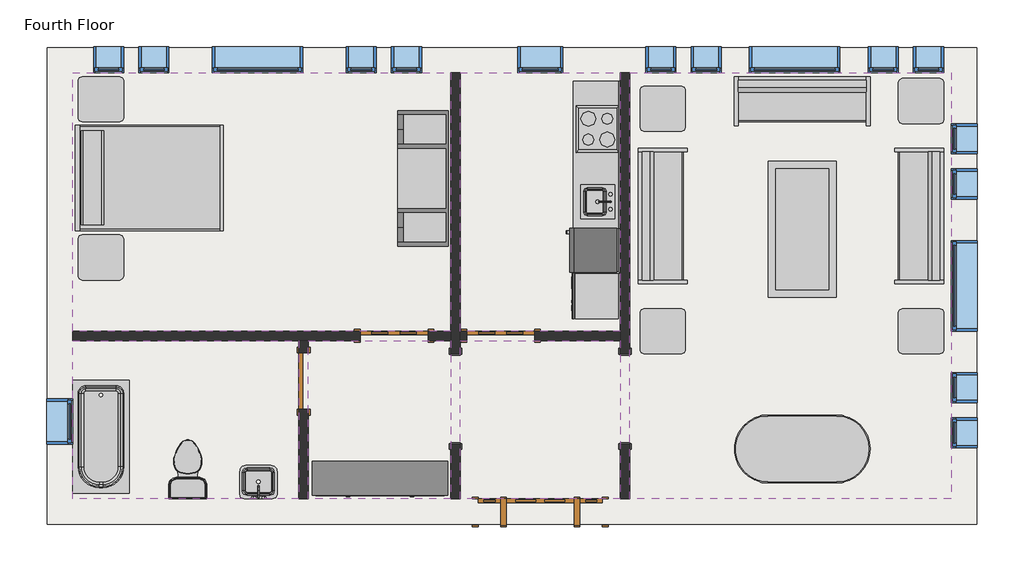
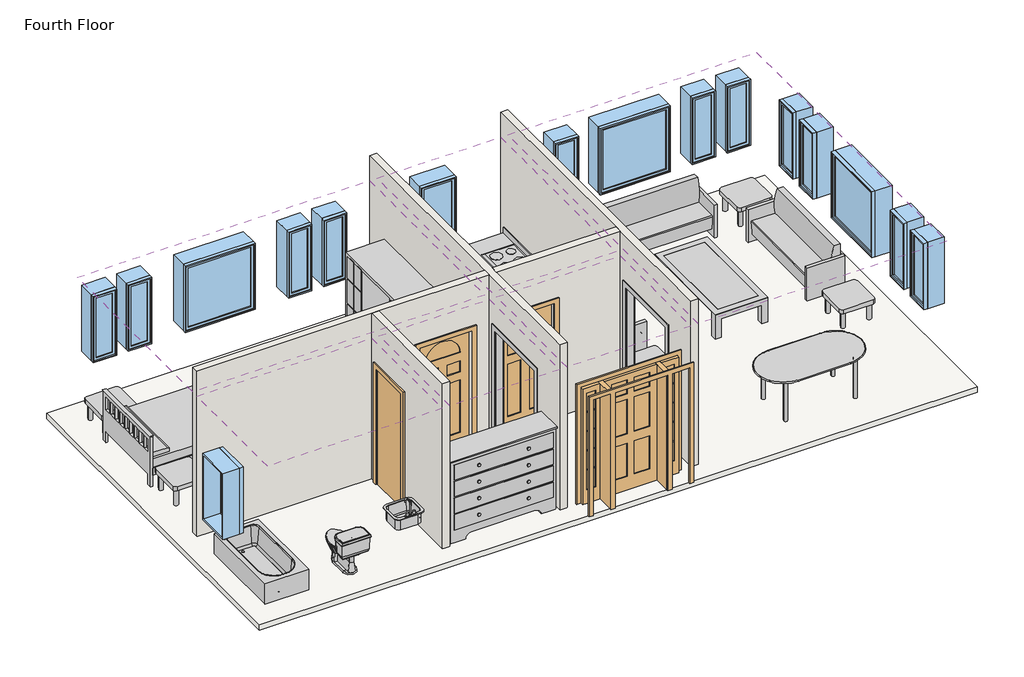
# One storey, incomplete: 17 windows, 15 furniture elements, 6 coverings, 6 proxies, 4 doors, 4 flow terminals, 4 walls, 1 slab.
"""IFC4 building model written with IfcOpenShell, lengths in millimetres."""

from ifc_helpers import new_model, si_unit, frame, origin, place, context, project, spatial, polyline, outline, extrude, faceted_brep, transform, mapped, element, save
from components import proxy_a6faaae8, proxy_45b28599, proxy_a6516e2b, proxy_f44482cc, proxy_c523a7b7, door_829da954, door_2e3b4da2, door_4d6c7550, door_ffdb1193, flow_terminal_871c2e40, flow_terminal_62a433f7, toilet_domestic_3d_toilet_domestic_3d_f7549cf7, toilet_domestic_3d_toilet_domestic_3d_183bbd19, tub_rectangular_3d_tub_rectangular_3d_c56944d8, furniture_096e7f55, furniture_dc2eca4b, furniture_7c473f12, furniture_cf0b6580, furniture_a4ffab56, furniture_cd93a443, furniture_2c34a4f9, furniture_3a588284, window_da97879f, window_d61ef850, window_60baf983, window_6eb97611

model = new_model("IFC4")

# Units and contexts
model_context = context("Model", 3, world=origin())
ifc_project = project(units=[si_unit("LENGTHUNIT", "METRE", prefix="MILLI")], contexts=[model_context])

# Site, building, storey
site = spatial("IfcSite", under=ifc_project)
building = spatial("IfcBuilding", under=site)
storey = spatial("IfcBuildingStorey", under=building, Name="Fourth Floor", Elevation=9144.0)

# Proxies
placement = place(None, origin())
proxy_shape = proxy_a6faaae8(model_context)
element("IfcBuildingElementProxy", 1, Name="Cook Top-4 Unit2 : 22\" x 20\"", ObjectType="Cook Top-4 Unit2 : 22\" x 20\"", at=placement, inside=storey, context=model_context, shape_type="MappedRepresentation", body=[
    mapped(proxy_shape, transform((2840.1428612, 5164.2241162, 9144.0), x_axis=(0.0, -1.0000000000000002, 0.0), y_axis=(1.0000000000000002, 0.0, 0.0), z_axis=(0.0, 0.0, 1.0))),
])
proxy_2_shape = proxy_45b28599(model_context)
element("IfcBuildingElementProxy", 2, Name="Dishwasher : 24\" x 24\" x 34\"", ObjectType="Dishwasher : 24\" x 24\" x 34\"", at=placement, inside=storey, context=model_context, shape_type="MappedRepresentation", body=[
    mapped(proxy_2_shape, transform((2548.2932964, 3298.6415847, 9144.0), x_axis=(0.0, -1.0000000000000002, 0.0), y_axis=(1.0000000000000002, 0.0, 0.0), z_axis=(0.0, 0.0, 1.0))),
])
proxy_3_shape = proxy_a6516e2b(model_context)
element("IfcBuildingElementProxy", 3, Name="Kitchenette - Medium : 8' 6\"", ObjectType="Kitchenette - Medium : 8' 6\"", at=placement, inside=storey, context=model_context, shape_type="MappedRepresentation", body=[
    mapped(proxy_3_shape, transform((3144.9428612, 4535.2618211, 9144.0), x_axis=(0.0, -1.0000000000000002, 0.0), y_axis=(1.0000000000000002, 0.0, 0.0), z_axis=(0.0, 0.0, 1.0))),
])
proxy_4_shape = proxy_f44482cc(model_context)
element("IfcBuildingElementProxy", 4, Name="Passage Opening-Cased : 48\" x 84\"", ObjectType="Passage Opening-Cased : 48\" x 84\"", at=placement, inside=storey, context=model_context, shape_type="MappedRepresentation", body=[
    mapped(proxy_4_shape, transform((3208.4428612, 1537.2944757, 9144.0), x_axis=(0.0, 1.0, 0.0), y_axis=(-1.0, 0.0, 0.0), z_axis=(0.0, 0.0, 1.0))),
])
element("IfcBuildingElementProxy", 5, Name="Passage Opening-Cased : 48\" x 84\"", ObjectType="Passage Opening-Cased : 48\" x 84\"", at=placement, inside=storey, context=model_context, shape_type="MappedRepresentation", body=[
    mapped(proxy_4_shape, transform((922.4428612, 1537.2944757, 9144.0), x_axis=(0.0, 1.0, 0.0), y_axis=(-1.0, 0.0, 0.0), z_axis=(0.0, 0.0, 1.0))),
])
proxy_5_shape = proxy_c523a7b7(model_context)
element("IfcBuildingElementProxy", 6, Name="Refrigerator : 24\" x 25\" LH", ObjectType="Refrigerator : 24\" x 25\" LH", at=placement, inside=storey, context=model_context, shape_type="MappedRepresentation", body=[
    mapped(proxy_5_shape, transform((2794.4938897, 3532.2741162, 9144.0), x_axis=(0.0, -1.0000000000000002, 0.0), y_axis=(1.0000000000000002, 0.0, 0.0), z_axis=(0.0, 0.0, 1.0))),
])

# Coverings
element("IfcCovering", 7, ObjectType="GWB on Mtl. Stud", at=placement, inside=storey, context=model_context, shape_type="SweptSolid", body=[
    extrude(outline(polyline([(-4235.3446388, 5924.893319), (858.9428612, 5924.893319), (858.9428612, 2441.918319), (-4235.3446388, 2441.918319), (-4235.3446388, 5924.893319)])), frame((0.0, 0.0, 11734.8), z_axis=(0.0, 0.0, 1.0), x_axis=(1.0, 0.0, 0.0)), (0.0, 0.0, 1.0), 107.95),
])
element("IfcCovering", 8, ObjectType="GWB on Mtl. Stud", at=placement, inside=storey, context=model_context, shape_type="SweptSolid", body=[
    extrude(outline(polyline([(-1187.3446388, 2314.918319), (-1187.3446388, 181.318319), (-4235.3446388, 181.318319), (-4235.3446388, 2314.918319), (-1187.3446388, 2314.918319)])), frame((0.0, 0.0, 11734.8), z_axis=(0.0, 0.0, 1.0), x_axis=(1.0, 0.0, 0.0)), (0.0, 0.0, 1.0), 107.95),
])
element("IfcCovering", 9, ObjectType="GWB on Mtl. Stud", at=placement, inside=storey, context=model_context, shape_type="SweptSolid", body=[
    extrude(outline(polyline([(858.9428612, 181.318319), (-1060.3446388, 181.318319), (-1060.3446388, 2314.918319), (858.9428612, 2314.918319), (858.9428612, 181.318319)])), frame((0.0, 0.0, 11734.8), z_axis=(0.0, 0.0, 1.0), x_axis=(1.0, 0.0, 0.0)), (0.0, 0.0, 1.0), 107.95),
])
element("IfcCovering", 10, ObjectType="GWB on Mtl. Stud", at=placement, inside=storey, context=model_context, shape_type="SweptSolid", body=[
    extrude(outline(polyline([(3144.9428612, 181.318319), (985.9428612, 181.318319), (985.9428612, 2314.918319), (3144.9428612, 2314.918319), (3144.9428612, 181.318319)])), frame((0.0, 0.0, 11734.8), z_axis=(0.0, 0.0, 1.0), x_axis=(1.0, 0.0, 0.0)), (0.0, 0.0, 1.0), 107.95),
])
element("IfcCovering", 11, ObjectType="GWB on Mtl. Stud", at=placement, inside=storey, context=model_context, shape_type="SweptSolid", body=[
    extrude(outline(polyline([(985.9428612, 2441.918319), (985.9428612, 5924.893319), (3144.9428612, 5924.893319), (3144.9428612, 2441.918319), (985.9428612, 2441.918319)])), frame((0.0, 0.0, 11734.8), z_axis=(0.0, 0.0, 1.0), x_axis=(1.0, 0.0, 0.0)), (0.0, 0.0, 1.0), 107.95),
])
element("IfcCovering", 12, ObjectType="GWB on Mtl. Stud", at=placement, inside=storey, context=model_context, shape_type="SweptSolid", body=[
    extrude(outline(polyline([(3271.9428612, 181.318319), (3271.9428612, 5924.893319), (7604.2303612, 5924.893319), (7604.2303612, 181.318319), (3271.9428612, 181.318319)])), frame((0.0, 0.0, 11734.8), z_axis=(0.0, 0.0, 1.0), x_axis=(1.0, 0.0, 0.0)), (0.0, 0.0, 1.0), 107.95),
])

# Doors
door_shape = door_829da954(model_context)
element("IfcDoor", 13, ObjectType="Single-Decorative 2 : 36\" x 84\"", at=placement, inside=storey, context=model_context, shape_type="MappedRepresentation", body=[
    mapped(door_shape, transform((1532.0428612, 2378.418319, 9144.0), x_axis=(-1.0, 0.0, 0.0), y_axis=(0.0, -1.0, 0.0), z_axis=(0.0, 0.0, 1.0))),
])
door_2_shape = door_2e3b4da2(model_context)
element("IfcDoor", 14, ObjectType="Single-Decorative 2 : 36\" x 84\"", at=placement, inside=storey, context=model_context, shape_type="MappedRepresentation", body=[
    mapped(door_2_shape, transform((95.3553612, 2378.418319, 9144.0), x_axis=(1.0, 0.0, 0.0), y_axis=(0.0, 1.0, 0.0), z_axis=(0.0, 0.0, 1.0))),
])
door_3_shape = door_4d6c7550(model_context)
element("IfcDoor", 15, ObjectType="Single-Flush : 30\" x 84\"", at=placement, inside=storey, context=model_context, shape_type="MappedRepresentation", body=[
    mapped(door_3_shape, transform((-1123.8446388, 1768.818319, 9144.0), x_axis=(0.0, 1.0, 0.0), y_axis=(-1.0, 0.0, 0.0), z_axis=(0.0, 0.0, 1.0))),
])
door_4_shape = door_ffdb1193(model_context)
element("IfcDoor", 16, ObjectType="Single-Raised Panel with Sidelights : 36\" x 84\"", at=placement, inside=storey, context=model_context, shape_type="MappedRepresentation", body=[
    mapped(door_4_shape, transform((2065.4428612, 5.105819, 9144.0), x_axis=(1.0, 0.0, 0.0), y_axis=(0.0, 1.0, 0.0), z_axis=(0.0, 0.0, 1.0))),
])

# Flow terminals
flow_terminal_shape = flow_terminal_871c2e40(model_context)
element("IfcFlowTerminal", 17, ObjectType="Sink Kitchen-Island : 18\" x 18\"", at=placement, inside=storey, context=model_context, shape_type="MappedRepresentation", body=[
    mapped(flow_terminal_shape, transform((2837.7974601, 4202.0133567, 9129.6), x_axis=(0.0, -1.0000000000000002, 0.0), y_axis=(1.0000000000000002, 0.0, 0.0), z_axis=(0.0, 0.0, 1.0))),
])
flow_terminal_2_shape = flow_terminal_62a433f7(model_context)
element("IfcFlowTerminal", 18, ObjectType="Sink Vanity-Square : 20\" x 18\"", at=placement, inside=storey, context=model_context, shape_type="MappedRepresentation", body=[
    mapped(flow_terminal_2_shape, transform((-1717.7553983, 361.4637201, 9144.0), x_axis=(-1.0, 0.0, 0.0), y_axis=(0.0, -1.0, 0.0), z_axis=(0.0, 0.0, 1.0))),
])
toilet_domestic_3d_toilet_domestic_3d_shape = toilet_domestic_3d_toilet_domestic_3d_f7549cf7(model_context)
toilet_domestic_3d_toilet_domestic_3d_2_shape = toilet_domestic_3d_toilet_domestic_3d_183bbd19(model_context)
element("IfcFlowTerminal", 19, ObjectType="Toilet-Domestic-3D : Toilet-Domestic-3D", at=placement, inside=storey, context=model_context, shape_type="MappedRepresentation", body=[
    mapped(toilet_domestic_3d_toilet_domestic_3d_shape, transform((-2684.3571388, 676.0143464, 9144.0), x_axis=(-1.0000000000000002, 0.0, 0.0), y_axis=(0.0, -1.0000000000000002, 0.0), z_axis=(0.0, 0.0, 1.0))),
    mapped(toilet_domestic_3d_toilet_domestic_3d_2_shape, transform((-2684.3571388, 676.0143464, 9144.0), x_axis=(-1.0000000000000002, 0.0, 0.0), y_axis=(0.0, -1.0000000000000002, 0.0), z_axis=(0.0, 0.0, 1.0))),
])
tub_rectangular_3d_tub_rectangular_3d_shape = tub_rectangular_3d_tub_rectangular_3d_c56944d8(model_context)
element("IfcFlowTerminal", 20, ObjectType="Tub-Rectangular-3D : Tub-Rectangular-3D", at=placement, inside=storey, context=model_context, shape_type="MappedRepresentation", body=[
    mapped(tub_rectangular_3d_tub_rectangular_3d_shape, transform((-4411.5571388, 672.5028503, 9144.0), x_axis=(0.0, -1.0, 0.0), y_axis=(1.0, 0.0, 0.0), z_axis=(0.0, 0.0, 1.0))),
])

# Furniture
furniture_shape = furniture_096e7f55(model_context)
element("IfcFurniture", 21, ObjectType="Bed-Shaker : Double 56\" x 78\"", at=placement, inside=storey, context=model_context, shape_type="MappedRepresentation", body=[
    mapped(furniture_shape, transform((-4190.1839627, 4526.7496884, 9144.0), x_axis=(0.0, 1.0000000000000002, 0.0), y_axis=(-1.0000000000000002, 0.0, 0.0), z_axis=(0.0, 0.0, 1.0))),
])
furniture_2_shape = furniture_dc2eca4b(model_context)
element("IfcFurniture", 22, ObjectType="Counter Top w Sink Hole : 24\" Depth", at=placement, inside=storey, context=model_context, shape_type="MappedRepresentation", body=[
    mapped(furniture_2_shape, transform((3144.9428612, 4611.4618211, 9129.6), x_axis=(0.0, -1.0000000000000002, 0.0), y_axis=(1.0000000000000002, 0.0, 0.0), z_axis=(0.0, 0.0, 1.0))),
])
furniture_3_shape = furniture_7c473f12(model_context)
element("IfcFurniture", 23, ObjectType="Dresser : 72\" x 60\" x 18\"", at=placement, inside=storey, context=model_context, shape_type="MappedRepresentation", body=[
    mapped(furniture_3_shape, transform((175.636121, 823.8812731, 9144.0), x_axis=(1.0, 0.0, 0.0), y_axis=(0.0, 1.0, 0.0), z_axis=(0.0, 0.0, 1.0))),
])
furniture_4_shape = furniture_cf0b6580(model_context)
element("IfcFurniture", 24, ObjectType="Entertainment Center : 72\" x 72\" x 24\"", at=placement, inside=storey, context=model_context, shape_type="MappedRepresentation", body=[
    mapped(furniture_4_shape, transform((927.2053612, 4500.905819, 9144.0), x_axis=(0.0, -1.0000000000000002, 0.0), y_axis=(1.0000000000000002, 0.0, 0.0), z_axis=(0.0, 0.0, 1.0))),
])
furniture_5_shape = furniture_a4ffab56(model_context)
element("IfcFurniture", 25, ObjectType="Sofa : 72\"", at=placement, inside=storey, context=model_context, shape_type="MappedRepresentation", body=[
    mapped(furniture_5_shape, transform((5525.6723694, 5396.1517206, 9144.0), x_axis=(1.0, 0.0, 0.0), y_axis=(0.0, 1.0, 0.0), z_axis=(0.0, 0.0, 1.0))),
])
element("IfcFurniture", 26, ObjectType="Sofa : 72\"", at=placement, inside=storey, context=model_context, shape_type="MappedRepresentation", body=[
    mapped(furniture_5_shape, transform((7024.6887628, 4063.2763108, 9144.0), x_axis=(0.0, -1.0, 0.0), y_axis=(1.0, 0.0, 0.0), z_axis=(0.0, 0.0, 1.0))),
])
element("IfcFurniture", 27, ObjectType="Sofa : 72\"", at=placement, inside=storey, context=model_context, shape_type="MappedRepresentation", body=[
    mapped(furniture_5_shape, transform((3862.5969596, 3922.5353272, 9144.0), x_axis=(0.0, 1.0000000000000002, 0.0), y_axis=(-1.0000000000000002, 0.0, 0.0), z_axis=(0.0, 0.0, 1.0))),
])
furniture_6_shape = furniture_cd93a443(model_context)
element("IfcFurniture", 28, ObjectType="Table-Coffee : 36\" x 72\" x 18\"", at=placement, inside=storey, context=model_context, shape_type="MappedRepresentation", body=[
    mapped(furniture_6_shape, transform((5500.8317834, 3833.3715857, 9144.0), x_axis=(0.0, -1.0, 0.0), y_axis=(1.0, 0.0, 0.0), z_axis=(0.0, 0.0, 1.0))),
])
furniture_7_shape = furniture_2c34a4f9(model_context)
element("IfcFurniture", 29, ObjectType="Table-Dining Oval : 36\" x 72\"", at=placement, inside=storey, context=model_context, shape_type="MappedRepresentation", body=[
    mapped(furniture_7_shape, transform((5997.8625333, 1212.5166797, 9144.0), x_axis=(1.0, 0.0, 0.0), y_axis=(0.0, 1.0, 0.0), z_axis=(0.0, 0.0, 1.0))),
])
furniture_8_shape = furniture_3a588284(model_context)
element("IfcFurniture", 30, ObjectType="Table-End : 24\" x 24\"", at=placement, inside=storey, context=model_context, shape_type="MappedRepresentation", body=[
    mapped(furniture_8_shape, transform((-4162.8782691, 5415.305819, 9144.0), x_axis=(1.0, 0.0, 0.0), y_axis=(0.0, 1.0, 0.0), z_axis=(0.0, 0.0, 1.0))),
])
element("IfcFurniture", 31, ObjectType="Table-End : 24\" x 24\"", at=placement, inside=storey, context=model_context, shape_type="MappedRepresentation", body=[
    mapped(furniture_8_shape, transform((-4162.8782691, 3283.293319, 9144.0), x_axis=(1.0, 0.0, 0.0), y_axis=(0.0, 1.0, 0.0), z_axis=(0.0, 0.0, 1.0))),
])
element("IfcFurniture", 32, ObjectType="Table-End : 24\" x 24\"", at=placement, inside=storey, context=model_context, shape_type="MappedRepresentation", body=[
    mapped(furniture_8_shape, transform((3407.9092309, 5288.305819, 9144.0), x_axis=(1.0, 0.0, 0.0), y_axis=(0.0, 1.0, 0.0), z_axis=(0.0, 0.0, 1.0))),
])
element("IfcFurniture", 33, ObjectType="Table-End : 24\" x 24\"", at=placement, inside=storey, context=model_context, shape_type="MappedRepresentation", body=[
    mapped(furniture_8_shape, transform((6887.7092309, 5389.905819, 9144.0), x_axis=(1.0, 0.0, 0.0), y_axis=(0.0, 1.0, 0.0), z_axis=(0.0, 0.0, 1.0))),
])
element("IfcFurniture", 34, ObjectType="Table-End : 24\" x 24\"", at=placement, inside=storey, context=model_context, shape_type="MappedRepresentation", body=[
    mapped(furniture_8_shape, transform((3407.9092309, 2289.518319, 9144.0), x_axis=(1.0, 0.0, 0.0), y_axis=(0.0, 1.0, 0.0), z_axis=(0.0, 0.0, 1.0))),
])
element("IfcFurniture", 35, ObjectType="Table-End : 24\" x 24\"", at=placement, inside=storey, context=model_context, shape_type="MappedRepresentation", body=[
    mapped(furniture_8_shape, transform((6887.7092309, 2289.518319, 9144.0), x_axis=(1.0, 0.0, 0.0), y_axis=(0.0, 1.0, 0.0), z_axis=(0.0, 0.0, 1.0))),
])

# Slab
element("IfcSlab", 36, ObjectType="LW Concrete on Metal Deck", at=placement, inside=storey, context=model_context, shape_type="SweptSolid", body=[
    extrude(outline(polyline([(7943.9553612, 6264.618319), (7943.9553612, -158.406681), (-4575.0696388, -158.406681), (-4575.0696388, 6264.618319), (7943.9553612, 6264.618319)])), frame((0.0, 0.0, 9039.225), z_axis=(0.0, 0.0, 1.0), x_axis=(1.0, 0.0, 0.0)), (0.0, 0.0, 1.0), 104.775),
])

# Walls
element("IfcWall", 37, ObjectType="Interior - 5\" Partition (2-hr)", at=placement, inside=storey, context=model_context, shape_type="Brep", body=[
    faceted_brep([(3144.9428612, 5924.893319, 9144.0), (3144.9428612, 2441.918319, 9144.0), (3144.9428612, 2314.918319, 9144.0), (3144.9428612, 2138.705819, 9144.0), (3144.9428612, 2138.705819, 11277.6), (3144.9428612, 919.505819, 11277.6), (3144.9428612, 919.505819, 9144.0), (3144.9428612, 181.318319, 9144.0), (3144.9428612, 181.318319, 12192.0), (3144.9428612, 2314.918319, 12192.0), (3144.9428612, 2441.918319, 12192.0), (3144.9428612, 5924.893319, 12192.0), (3271.9428612, 2138.705819, 11277.6), (3271.9428612, 2138.705819, 9144.0), (3271.9428612, 5924.893319, 9144.0), (3271.9428612, 5924.893319, 12192.0), (3271.9428612, 181.318319, 12192.0), (3271.9428612, 181.318319, 9144.0), (3271.9428612, 919.505819, 9144.0), (3271.9428612, 919.505819, 11277.6)], [[[0, 1, 2, 3, 4, 5, 6, 7, 8, 9, 10, 11]], [[12, 13, 14, 15, 16, 17, 18, 19]], [[18, 17, 7, 6]], [[14, 13, 3, 2, 1, 0]], [[11, 10, 9, 8, 16, 15]], [[6, 5, 19, 18]], [[4, 3, 13, 12]], [[5, 4, 12, 19]], [[0, 11, 15, 14]], [[8, 7, 17, 16]]]),
])
element("IfcWall", 38, ObjectType="Interior - 5\" Partition (2-hr)", at=placement, inside=storey, context=model_context, shape_type="Brep", body=[
    faceted_brep([(858.9428612, 5924.893319, 9144.0), (858.9428612, 2441.918319, 9144.0), (858.9428612, 2314.918319, 9144.0), (858.9428612, 2138.705819, 9144.0), (858.9428612, 2138.705819, 11277.6), (858.9428612, 919.505819, 11277.6), (858.9428612, 919.505819, 9144.0), (858.9428612, 181.318319, 9144.0), (858.9428612, 181.318319, 12192.0), (858.9428612, 2314.918319, 12192.0), (858.9428612, 2441.918319, 12192.0), (858.9428612, 5924.893319, 12192.0), (985.9428612, 2138.705819, 11277.6), (985.9428612, 2138.705819, 9144.0), (985.9428612, 2314.918319, 9144.0), (985.9428612, 2441.918319, 9144.0), (985.9428612, 5924.893319, 9144.0), (985.9428612, 5924.893319, 12192.0), (985.9428612, 2441.918319, 12192.0), (985.9428612, 2314.918319, 12192.0), (985.9428612, 181.318319, 12192.0), (985.9428612, 181.318319, 9144.0), (985.9428612, 919.505819, 9144.0), (985.9428612, 919.505819, 11277.6)], [[[0, 1, 2, 3, 4, 5, 6, 7, 8, 9, 10, 11]], [[12, 13, 14, 15, 16, 17, 18, 19, 20, 21, 22, 23]], [[22, 21, 7, 6]], [[16, 15, 14, 13, 3, 2, 1, 0]], [[11, 10, 9, 8, 20, 19, 18, 17]], [[6, 5, 23, 22]], [[4, 3, 13, 12]], [[5, 4, 12, 23]], [[0, 11, 17, 16]], [[8, 7, 21, 20]]]),
])
element("IfcWall", 39, ObjectType="Interior - 5\" Partition (2-hr)", at=placement, inside=storey, context=model_context, shape_type="Brep", body=[
    faceted_brep([(3144.9428612, 2314.918319, 9144.0), (3144.9428612, 2314.918319, 12192.0), (985.9428612, 2314.918319, 12192.0), (985.9428612, 2314.918319, 9144.0), (1074.8428612, 2314.918319, 9144.0), (1074.8428612, 2314.918319, 11277.6), (1989.2428612, 2314.918319, 11277.6), (1989.2428612, 2314.918319, 9144.0), (3144.9428612, 2441.918319, 12192.0), (3144.9428612, 2441.918319, 9144.0), (1989.2428612, 2441.918319, 9144.0), (1989.2428612, 2441.918319, 11277.6), (1074.8428612, 2441.918319, 11277.6), (1074.8428612, 2441.918319, 9144.0), (985.9428612, 2441.918319, 9144.0), (985.9428612, 2441.918319, 12192.0)], [[[0, 1, 2, 3, 4, 5, 6, 7]], [[8, 9, 10, 11, 12, 13, 14, 15]], [[9, 0, 7, 10]], [[13, 4, 3, 14]], [[1, 8, 15, 2]], [[1, 0, 9, 8]], [[3, 2, 15, 14]], [[5, 4, 13, 12]], [[6, 5, 12, 11]], [[7, 6, 11, 10]]]),
    faceted_brep([(552.5553612, 2314.918319, 11277.6), (552.5553612, 2314.918319, 9144.0), (858.9428612, 2314.918319, 9144.0), (858.9428612, 2314.918319, 12192.0), (-1060.3446388, 2314.918319, 12192.0), (-1187.3446388, 2314.918319, 12192.0), (-4235.3446388, 2314.918319, 12192.0), (-4235.3446388, 2314.918319, 9144.0), (-1187.3446388, 2314.918319, 9144.0), (-1060.3446388, 2314.918319, 9144.0), (-361.8446388, 2314.918319, 9144.0), (-361.8446388, 2314.918319, 11277.6), (552.5553612, 2441.918319, 9144.0), (552.5553612, 2441.918319, 11277.6), (-361.8446388, 2441.918319, 11277.6), (-361.8446388, 2441.918319, 9144.0), (-4235.3446388, 2441.918319, 9144.0), (-4235.3446388, 2441.918319, 12192.0), (858.9428612, 2441.918319, 12192.0), (858.9428612, 2441.918319, 9144.0)], [[[0, 1, 2, 3, 4, 5, 6, 7, 8, 9, 10, 11]], [[12, 13, 14, 15, 16, 17, 18, 19]], [[1, 12, 19, 2]], [[15, 10, 9, 8, 7, 16]], [[17, 6, 5, 4, 3, 18]], [[3, 2, 19, 18]], [[13, 12, 1, 0]], [[14, 13, 0, 11]], [[15, 14, 11, 10]], [[7, 6, 17, 16]]]),
])
element("IfcWall", 40, ObjectType="Interior - 5\" Partition (2-hr)", at=placement, inside=storey, context=model_context, shape_type="SweptSolid", body=[
    extrude(outline(polyline([(2314.918319, 9144.0), (2149.818319, 9144.0), (2149.818319, 11277.6), (1387.818319, 11277.6), (1387.818319, 9144.0), (181.318319, 9144.0), (181.318319, 12192.0), (2314.918319, 12192.0), (2314.918319, 9144.0)])), frame((-1187.3446388, 0.0, 0.0), z_axis=(1.0, 0.0, 0.0), x_axis=(0.0, 1.0, 0.0)), (0.0, 0.0, 1.0), 127.0),
])

# Windows
window_shape = window_da97879f(model_context)
element("IfcWindow", 41, ObjectType="Fixed : 16\" x 48\"", at=placement, inside=storey, context=model_context, shape_type="MappedRepresentation", body=[
    mapped(window_shape, transform((-3789.2571388, 6101.105819, 9144.0), x_axis=(-1.0, 0.0, 0.0), y_axis=(0.0, -1.0, 0.0), z_axis=(0.0, 0.0, 1.0))),
])
element("IfcWindow", 42, ObjectType="Fixed : 16\" x 48\"", at=placement, inside=storey, context=model_context, shape_type="MappedRepresentation", body=[
    mapped(window_shape, transform((-3179.6571388, 6101.105819, 9144.0), x_axis=(-1.0, 0.0, 0.0), y_axis=(0.0, -1.0, 0.0), z_axis=(0.0, 0.0, 1.0))),
])
element("IfcWindow", 43, ObjectType="Fixed : 16\" x 48\"", at=placement, inside=storey, context=model_context, shape_type="MappedRepresentation", body=[
    mapped(window_shape, transform((3652.9428612, 6101.105819, 9144.0), x_axis=(-1.0, 0.0, 0.0), y_axis=(0.0, -1.0, 0.0), z_axis=(0.0, 0.0, 1.0))),
])
element("IfcWindow", 44, ObjectType="Fixed : 16\" x 48\"", at=placement, inside=storey, context=model_context, shape_type="MappedRepresentation", body=[
    mapped(window_shape, transform((4262.5428612, 6101.105819, 9144.0), x_axis=(-1.0, 0.0, 0.0), y_axis=(0.0, -1.0, 0.0), z_axis=(0.0, 0.0, 1.0))),
])
element("IfcWindow", 45, ObjectType="Fixed : 16\" x 48\"", at=placement, inside=storey, context=model_context, shape_type="MappedRepresentation", body=[
    mapped(window_shape, transform((6650.1428612, 6101.105819, 9144.0), x_axis=(-1.0, 0.0, 0.0), y_axis=(0.0, -1.0, 0.0), z_axis=(0.0, 0.0, 1.0))),
])
element("IfcWindow", 46, ObjectType="Fixed : 16\" x 48\"", at=placement, inside=storey, context=model_context, shape_type="MappedRepresentation", body=[
    mapped(window_shape, transform((7259.7428612, 6101.105819, 9144.0), x_axis=(-1.0, 0.0, 0.0), y_axis=(0.0, -1.0, 0.0), z_axis=(0.0, 0.0, 1.0))),
])
element("IfcWindow", 47, ObjectType="Fixed : 16\" x 48\"", at=placement, inside=storey, context=model_context, shape_type="MappedRepresentation", body=[
    mapped(window_shape, transform((7780.4428612, 5072.405819, 9144.0), x_axis=(0.0, 1.0, 0.0), y_axis=(-1.0, 0.0, 0.0), z_axis=(0.0, 0.0, 1.0))),
])
element("IfcWindow", 48, ObjectType="Fixed : 16\" x 48\"", at=placement, inside=storey, context=model_context, shape_type="MappedRepresentation", body=[
    mapped(window_shape, transform((7780.4428612, 4462.805819, 9144.0), x_axis=(0.0, 1.0, 0.0), y_axis=(-1.0, 0.0, 0.0), z_axis=(0.0, 0.0, 1.0))),
])
element("IfcWindow", 49, ObjectType="Fixed : 16\" x 48\"", at=placement, inside=storey, context=model_context, shape_type="MappedRepresentation", body=[
    mapped(window_shape, transform((7780.4428612, 1719.605819, 9144.0), x_axis=(0.0, 1.0, 0.0), y_axis=(-1.0, 0.0, 0.0), z_axis=(0.0, 0.0, 1.0))),
])
element("IfcWindow", 50, ObjectType="Fixed : 16\" x 48\"", at=placement, inside=storey, context=model_context, shape_type="MappedRepresentation", body=[
    mapped(window_shape, transform((7780.4428612, 1110.005819, 9144.0), x_axis=(0.0, 1.0, 0.0), y_axis=(-1.0, 0.0, 0.0), z_axis=(0.0, 0.0, 1.0))),
])
window_2_shape = window_d61ef850(model_context)
element("IfcWindow", 51, ObjectType="Fixed : 16\" x 48\"", at=placement, inside=storey, context=model_context, shape_type="MappedRepresentation", body=[
    mapped(window_2_shape, transform((300.1428612, 6101.105819, 9144.0), x_axis=(1.0, 0.0, 0.0), y_axis=(0.0, 1.0, 0.0), z_axis=(0.0, 0.0, 1.0))),
])
element("IfcWindow", 52, ObjectType="Fixed : 16\" x 48\"", at=placement, inside=storey, context=model_context, shape_type="MappedRepresentation", body=[
    mapped(window_2_shape, transform((-309.4571388, 6101.105819, 9144.0), x_axis=(1.0, 0.0, 0.0), y_axis=(0.0, 1.0, 0.0), z_axis=(0.0, 0.0, 1.0))),
])
window_3_shape = window_60baf983(model_context)
element("IfcWindow", 53, ObjectType="Fixed : 24\" x 48\"", at=placement, inside=storey, context=model_context, shape_type="MappedRepresentation", body=[
    mapped(window_3_shape, transform((2027.3428612, 6101.105819, 9144.0), x_axis=(-1.0, 0.0, 0.0), y_axis=(0.0, -1.0, 0.0), z_axis=(0.0, 0.0, 1.0))),
])
element("IfcWindow", 54, ObjectType="Fixed : 24\" x 48\"", at=placement, inside=storey, context=model_context, shape_type="MappedRepresentation", body=[
    mapped(window_3_shape, transform((-4411.5571388, 1186.205819, 9144.0), x_axis=(0.0, -1.0, 0.0), y_axis=(1.0, 0.0, 0.0), z_axis=(0.0, 0.0, 1.0))),
])
window_4_shape = window_6eb97611(model_context)
element("IfcWindow", 55, ObjectType="Fixed : 48\" x 48\"", at=placement, inside=storey, context=model_context, shape_type="MappedRepresentation", body=[
    mapped(window_4_shape, transform((-1782.6571388, 6101.105819, 9144.0), x_axis=(-1.0, 0.0, 0.0), y_axis=(0.0, -1.0, 0.0), z_axis=(0.0, 0.0, 1.0))),
])
element("IfcWindow", 56, ObjectType="Fixed : 48\" x 48\"", at=placement, inside=storey, context=model_context, shape_type="MappedRepresentation", body=[
    mapped(window_4_shape, transform((5456.3428612, 6101.105819, 9144.0), x_axis=(-1.0, 0.0, 0.0), y_axis=(0.0, -1.0, 0.0), z_axis=(0.0, 0.0, 1.0))),
])
element("IfcWindow", 57, ObjectType="Fixed : 48\" x 48\"", at=placement, inside=storey, context=model_context, shape_type="MappedRepresentation", body=[
    mapped(window_4_shape, transform((7780.4428612, 3091.205819, 9144.0), x_axis=(0.0, 1.0, 0.0), y_axis=(-1.0, 0.0, 0.0), z_axis=(0.0, 0.0, 1.0))),
])

save(model, "model.ifc")
